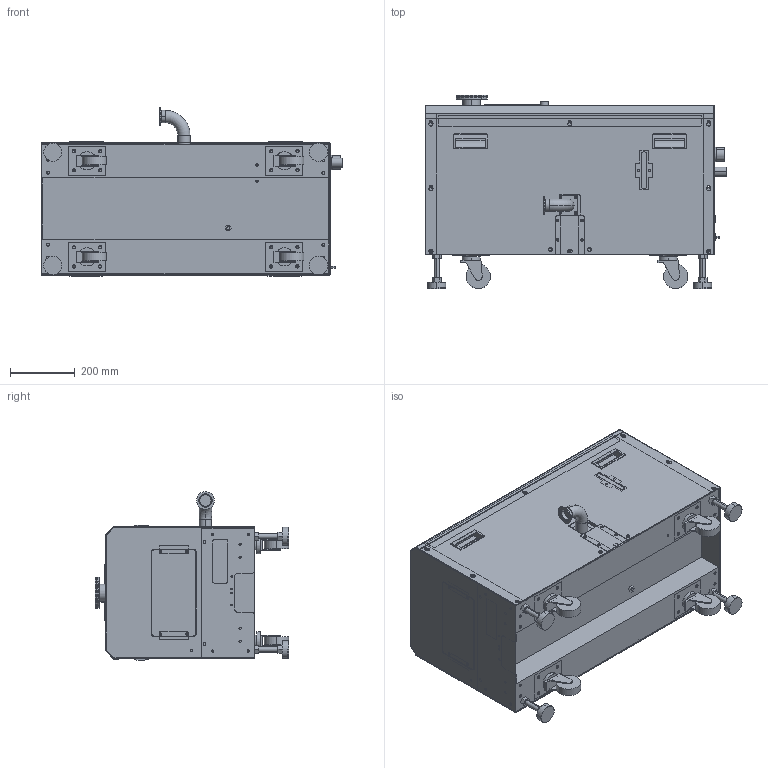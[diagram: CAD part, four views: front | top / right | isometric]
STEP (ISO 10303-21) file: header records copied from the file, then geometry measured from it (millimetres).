
FILE_DESCRIPTION((''),'2;1');
FILE_NAME('300547560_Y19_000_ASM','2016-07-08T',('56762'),('Copyright by Leybold GmbH'),'PRO/ENGINEER BY PARAMETRIC TECHNOLOGY CORPORATION, 2015280','PRO/ENGINEER BY PARAMETRIC TECHNOLOGY CORPORATION, 2015280','');
FILE_SCHEMA(('AUTOMOTIVE_DESIGN { 1 0 10303 214 1 1 1 1 }'));
Products named in the file (18): 300547545_Y19_000; 300539643_Y19_000; 300539644_Y19_000; 300539645_Y19_000; 300547546_Y19_000; 300547528_Y19_000; 300539648_Y19_000; 300547547_Y19_000; 300547548_Y19_000; 300547549_Y19_000; 300547550_Y19_000; 300547551_Y19_000; 300547553_Y19_000; 300552591_Y19_000; 300547536_Y19_000; 300547556_Y19_000; 300547558_Y19_000; 300547560_Y19_000_ASM
Assembly tree (26 placements, depth 2):
  300547560_Y19_000_ASM
    300547545_Y19_000
    300539643_Y19_000  x4
    300539644_Y19_000  x4
    300539645_Y19_000  x4
    300547546_Y19_000
    300547528_Y19_000
    300539648_Y19_000
    300547547_Y19_000
    300547548_Y19_000
    300547549_Y19_000
    300547550_Y19_000
    300547551_Y19_000
    300547553_Y19_000
    300552591_Y19_000
    300547536_Y19_000
    300547556_Y19_000
    300547558_Y19_000
Bounding box: 932 x 597 x 521.2 mm (x, y, z)
Volume: 57307069.5 mm3; surface area: 6649642.6 mm2
Topology: 30 solids, 42 shells, 3405 faces, 8834 edges, 5822 vertices
Faces by surface type: plane 1842, cylinder 1096, extrusion 365, cone 91, torus 8, sphere 2, bspline 1
Entity records: 110766 total; most frequent: CARTESIAN_POINT 23484, ORIENTED_EDGE 16696, DIRECTION 15846, EDGE_CURVE 8348, VECTOR 5730, VERTEX_POINT 5534, LINE 5365, AXIS2_PLACEMENT_3D 5058
